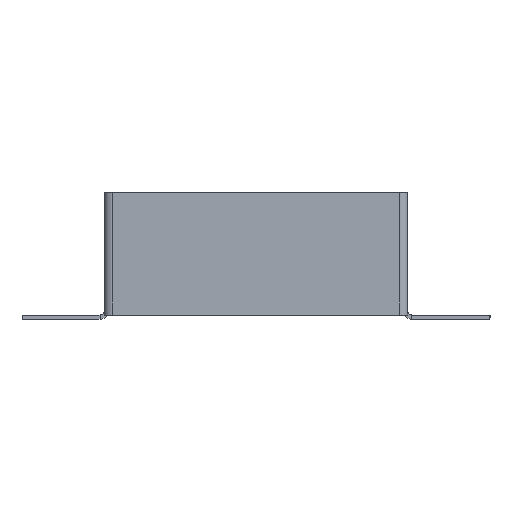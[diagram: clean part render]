
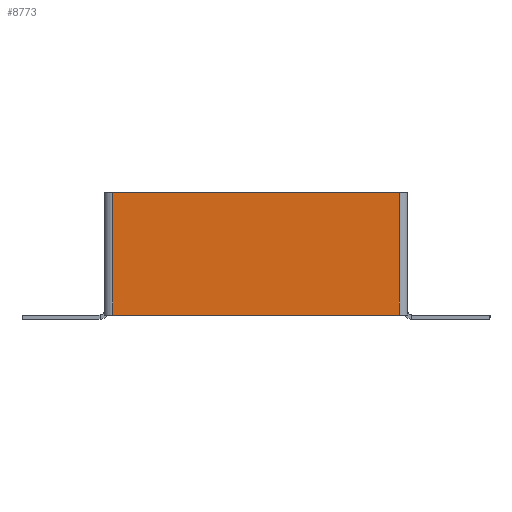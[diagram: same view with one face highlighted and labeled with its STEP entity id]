
A CAD part, front view. The second image highlights one B-rep face of the part: STEP entity #8773.
In plain terms, the highlighted planar face has unit normal (0, -1, 0).
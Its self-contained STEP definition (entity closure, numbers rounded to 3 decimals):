
#289 = DIRECTION ( 'NONE',  ( 1., 0., 0. ) ) ;
#892 = FACE_OUTER_BOUND ( 'NONE', #2243, .T. ) ;
#1228 = CARTESIAN_POINT ( 'NONE',  ( 68., -2., -58. ) ) ;
#1343 = ORIENTED_EDGE ( 'NONE', *, *, #4366, .F. ) ;
#1408 = VECTOR ( 'NONE', #7379, 1000. ) ;
#1585 = ORIENTED_EDGE ( 'NONE', *, *, #4122, .T. ) ;
#1775 = VECTOR ( 'NONE', #6294, 1000. ) ;
#1859 = CARTESIAN_POINT ( 'NONE',  ( -70., -2., -58. ) ) ;
#2243 = EDGE_LOOP ( 'NONE', ( #7856, #1343, #1585, #2320 ) ) ;
#2320 = ORIENTED_EDGE ( 'NONE', *, *, #9900, .F. ) ;
#2345 = VECTOR ( 'NONE', #3136, 1000. ) ;
#2352 = VERTEX_POINT ( 'NONE', #5489 ) ;
#3088 = CARTESIAN_POINT ( 'NONE',  ( -68., -2., -58. ) ) ;
#3136 = DIRECTION ( 'NONE',  ( 0., 0., -1. ) ) ;
#3599 = LINE ( 'NONE', #7963, #2345 ) ;
#3787 = LINE ( 'NONE', #1859, #1408 ) ;
#4122 = EDGE_CURVE ( 'NONE', #6982, #6893, #6929, .T. ) ;
#4366 = EDGE_CURVE ( 'NONE', #6982, #9056, #3787, .T. ) ;
#5088 = CARTESIAN_POINT ( 'NONE',  ( -70., -2., 0. ) ) ;
#5489 = CARTESIAN_POINT ( 'NONE',  ( -68., -2., 0. ) ) ;
#6024 = EDGE_CURVE ( 'NONE', #2352, #9056, #3599, .T. ) ;
#6294 = DIRECTION ( 'NONE',  ( 0., 0., 1. ) ) ;
#6893 = VERTEX_POINT ( 'NONE', #9199 ) ;
#6929 = LINE ( 'NONE', #8631, #1775 ) ;
#6982 = VERTEX_POINT ( 'NONE', #1228 ) ;
#7379 = DIRECTION ( 'NONE',  ( -1., 0., 0. ) ) ;
#7393 = AXIS2_PLACEMENT_3D ( 'NONE', #10018, #8468, #9283 ) ;
#7544 = PLANE ( 'NONE',  #7393 ) ;
#7856 = ORIENTED_EDGE ( 'NONE', *, *, #6024, .T. ) ;
#7963 = CARTESIAN_POINT ( 'NONE',  ( -68., -2., 0. ) ) ;
#8150 = VECTOR ( 'NONE', #289, 1000. ) ;
#8468 = DIRECTION ( 'NONE',  ( 0., 1., 0. ) ) ;
#8631 = CARTESIAN_POINT ( 'NONE',  ( 68., -2., -58. ) ) ;
#8773 = ADVANCED_FACE ( 'NONE', ( #892 ), #7544, .F. ) ;
#9056 = VERTEX_POINT ( 'NONE', #3088 ) ;
#9199 = CARTESIAN_POINT ( 'NONE',  ( 68., -2., 0. ) ) ;
#9283 = DIRECTION ( 'NONE',  ( 0., 0., 1. ) ) ;
#9531 = LINE ( 'NONE', #5088, #8150 ) ;
#9900 = EDGE_CURVE ( 'NONE', #2352, #6893, #9531, .T. ) ;
#10018 = CARTESIAN_POINT ( 'NONE',  ( 0., -2., 0. ) ) ;
